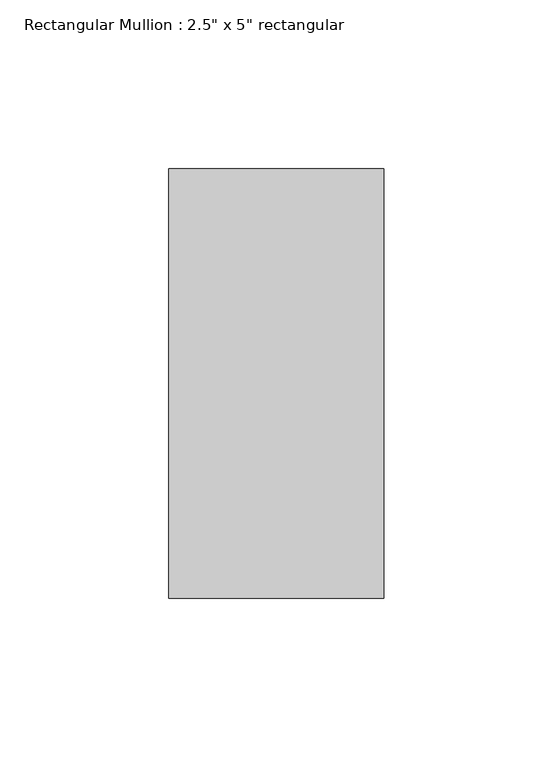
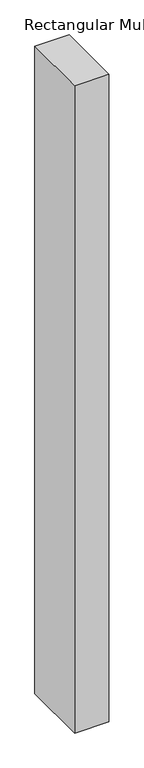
"""IFC4 building model written with IfcOpenShell, lengths in millimetres: member geometry."""

from ifc_helpers import new_model, si_unit, frame, origin, place, context, project, spatial, polyline, outline, extrude, source, transform, mapped, element, save


def member_d5dacedd(model_context):
    return source(origin(), model_context, "Body", "SweptSolid", [
        extrude(outline(polyline([(0.0, 63.5), (0.0, -63.5), (-63.5, -63.5), (-63.5, 63.5), (0.0, 63.5)])), frame((0.0, 0.0, -1264.5571429), z_axis=(0.0, 0.0, 1.0), x_axis=(1.0, 0.0, 0.0)), (0.0, 0.0, 1.0), 1264.5571429),
    ])


if __name__ == "__main__":
    model = new_model("IFC4")
    model_context = context("Model", 3, world=origin())
    ifc_project = project(units=[si_unit("LENGTHUNIT", "METRE", prefix="MILLI")], contexts=[model_context])
    site = spatial("IfcSite", under=ifc_project)
    building = spatial("IfcBuilding", under=site)
    placement = place(None, origin())
    member_shape = member_d5dacedd(model_context)
    element("IfcMember", 1, ObjectType="Rectangular Mullion : 2.5\" x 5\" rectangular", at=placement, inside=building, context=model_context, shape_type="MappedRepresentation", body=[
        mapped(member_shape, transform((0.0, 0.0, 0.0), x_axis=(1.0, 0.0, 0.0), y_axis=(0.0, 1.0, 0.0), z_axis=(0.0, 0.0, 1.0))),
    ])
    save(model, "model.ifc")
